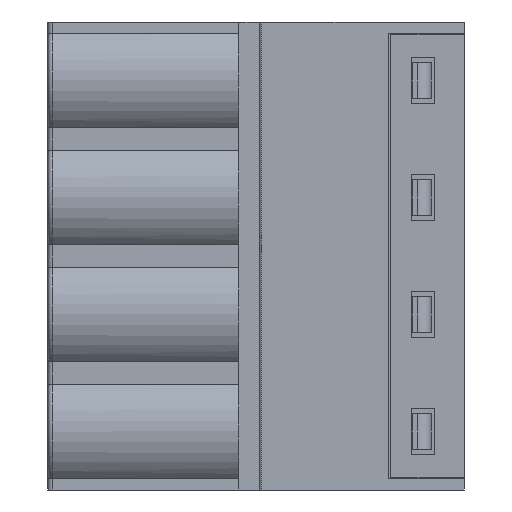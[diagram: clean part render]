
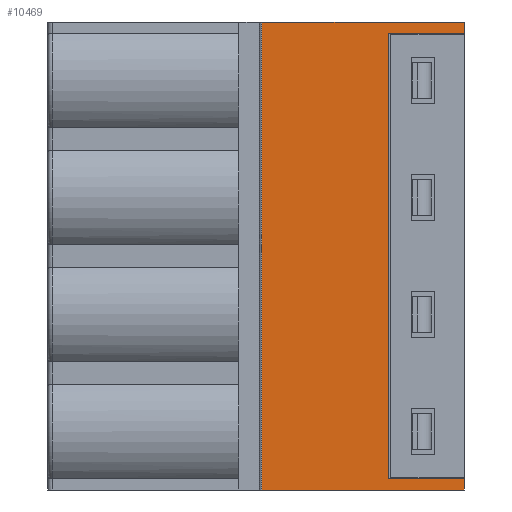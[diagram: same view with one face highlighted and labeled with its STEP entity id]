
A CAD part, left-side view. The second image highlights one B-rep face of the part: STEP entity #10469.
In plain terms, the highlighted planar face has unit normal (-1, 0, 0).
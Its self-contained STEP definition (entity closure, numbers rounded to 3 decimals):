
#19 = CARTESIAN_POINT ( 'NONE',  ( -3.9, 3.167, 0.492 ) ) ;
#136 = EDGE_CURVE ( 'NONE', #8897, #17135, #16107, .T. ) ;
#327 = CARTESIAN_POINT ( 'NONE',  ( -3.9, 3.3, 0.492 ) ) ;
#1275 = CARTESIAN_POINT ( 'NONE',  ( -3.9, 8.8, 0. ) ) ;
#1855 = DIRECTION ( 'NONE',  ( -1., 0., 0. ) ) ;
#1894 = CARTESIAN_POINT ( 'NONE',  ( -3.9, 8.8, 20.32 ) ) ;
#2184 = ORIENTED_EDGE ( 'NONE', *, *, #5096, .T. ) ;
#2385 = EDGE_CURVE ( 'NONE', #16694, #5315, #8690, .T. ) ;
#2491 = DIRECTION ( 'NONE',  ( 0., -1., 0. ) ) ;
#2533 = AXIS2_PLACEMENT_3D ( 'NONE', #16979, #1855, #16886 ) ;
#2594 = CARTESIAN_POINT ( 'NONE',  ( -3.9, 0., 20.32 ) ) ;
#2596 = ORIENTED_EDGE ( 'NONE', *, *, #14839, .F. ) ;
#2664 = ORIENTED_EDGE ( 'NONE', *, *, #2690, .T. ) ;
#2685 = CARTESIAN_POINT ( 'NONE',  ( -3.9, 2.9, 19.83 ) ) ;
#2690 = EDGE_CURVE ( 'NONE', #7382, #12235, #14552, .T. ) ;
#3226 = CARTESIAN_POINT ( 'NONE',  ( -3.9, 0., 0.49 ) ) ;
#3449 = ORIENTED_EDGE ( 'NONE', *, *, #2385, .F. ) ;
#3758 = CARTESIAN_POINT ( 'NONE',  ( -3.9, 0., 0. ) ) ;
#3806 = CARTESIAN_POINT ( 'NONE',  ( -3.9, 8.8, 20.32 ) ) ;
#4124 = EDGE_CURVE ( 'NONE', #10400, #8897, #17359, .T. ) ;
#4185 = VERTEX_POINT ( 'NONE', #6680 ) ;
#4357 = CARTESIAN_POINT ( 'NONE',  ( -3.9, 0., 0.49 ) ) ;
#4629 = FACE_OUTER_BOUND ( 'NONE', #10247, .T. ) ;
#5015 = ORIENTED_EDGE ( 'NONE', *, *, #136, .T. ) ;
#5096 = EDGE_CURVE ( 'NONE', #12235, #14252, #9155, .T. ) ;
#5315 = VERTEX_POINT ( 'NONE', #3226 ) ;
#5691 = CARTESIAN_POINT ( 'NONE',  ( -3.9, 1.933, 0.49 ) ) ;
#6680 = CARTESIAN_POINT ( 'NONE',  ( -3.9, 0., 20.32 ) ) ;
#7185 = ORIENTED_EDGE ( 'NONE', *, *, #17121, .F. ) ;
#7223 = LINE ( 'NONE', #11604, #15310 ) ;
#7382 = VERTEX_POINT ( 'NONE', #1894 ) ;
#7397 = LINE ( 'NONE', #4357, #12803 ) ;
#7493 = CARTESIAN_POINT ( 'NONE',  ( -3.9, 3.3, 19.828 ) ) ;
#7885 = VECTOR ( 'NONE', #12015, 1000. ) ;
#8113 = VECTOR ( 'NONE', #14769, 1000. ) ;
#8690 = B_SPLINE_CURVE_WITH_KNOTS ( 'NONE', 3,
 ( #11153, #5691, #14923, #10885 ),
 .UNSPECIFIED., .F., .F.,
 ( 4, 4 ),
 ( 0., 1. ),
 .UNSPECIFIED. ) ;
#8897 = VERTEX_POINT ( 'NONE', #2685 ) ;
#9110 = CARTESIAN_POINT ( 'NONE',  ( -3.9, 3.033, 19.829 ) ) ;
#9155 = LINE ( 'NONE', #9502, #7885 ) ;
#9262 = DIRECTION ( 'NONE',  ( 0., 0., -1. ) ) ;
#9327 = EDGE_CURVE ( 'NONE', #5315, #14252, #7397, .T. ) ;
#9399 = VERTEX_POINT ( 'NONE', #327 ) ;
#9502 = CARTESIAN_POINT ( 'NONE',  ( -3.9, 8.8, 0. ) ) ;
#9570 = CARTESIAN_POINT ( 'NONE',  ( -3.9, 2.9, 0.49 ) ) ;
#9613 = CARTESIAN_POINT ( 'NONE',  ( -3.9, 2.9, 0.49 ) ) ;
#9899 = ORIENTED_EDGE ( 'NONE', *, *, #4124, .T. ) ;
#10247 = EDGE_LOOP ( 'NONE', ( #2184, #12763, #3449, #2596, #17119, #9899, #5015, #12455, #7185, #2664 ) ) ;
#10400 = VERTEX_POINT ( 'NONE', #12148 ) ;
#10469 = ADVANCED_FACE ( 'NONE', ( #4629 ), #11513, .T. ) ;
#10885 = CARTESIAN_POINT ( 'NONE',  ( -3.9, 0., 0.49 ) ) ;
#10949 = CARTESIAN_POINT ( 'NONE',  ( -3.9, 3.033, 0.491 ) ) ;
#11153 = CARTESIAN_POINT ( 'NONE',  ( -3.9, 2.9, 0.49 ) ) ;
#11513 = PLANE ( 'NONE',  #2533 ) ;
#11543 = EDGE_CURVE ( 'NONE', #10400, #9399, #7223, .T. ) ;
#11604 = CARTESIAN_POINT ( 'NONE',  ( -3.9, 3.3, 19.828 ) ) ;
#12015 = DIRECTION ( 'NONE',  ( 0., -1., 0. ) ) ;
#12148 = CARTESIAN_POINT ( 'NONE',  ( -3.9, 3.3, 19.828 ) ) ;
#12235 = VERTEX_POINT ( 'NONE', #1275 ) ;
#12288 = CARTESIAN_POINT ( 'NONE',  ( -3.9, 3.3, 0.492 ) ) ;
#12455 = ORIENTED_EDGE ( 'NONE', *, *, #15564, .F. ) ;
#12574 = CARTESIAN_POINT ( 'NONE',  ( -3.9, 2.9, 19.83 ) ) ;
#12763 = ORIENTED_EDGE ( 'NONE', *, *, #9327, .F. ) ;
#12777 = DIRECTION ( 'NONE',  ( 0., 0., -1. ) ) ;
#12803 = VECTOR ( 'NONE', #13836, 1000. ) ;
#12954 = CARTESIAN_POINT ( 'NONE',  ( -3.9, 3.167, 19.828 ) ) ;
#13246 = LINE ( 'NONE', #2594, #8113 ) ;
#13836 = DIRECTION ( 'NONE',  ( 0., 0., -1. ) ) ;
#14252 = VERTEX_POINT ( 'NONE', #3758 ) ;
#14552 = LINE ( 'NONE', #3806, #17149 ) ;
#14664 = CARTESIAN_POINT ( 'NONE',  ( -3.9, 8.8, 20.32 ) ) ;
#14750 = LINE ( 'NONE', #14664, #17229 ) ;
#14769 = DIRECTION ( 'NONE',  ( 0., 0., -1. ) ) ;
#14839 = EDGE_CURVE ( 'NONE', #9399, #16694, #15541, .T. ) ;
#14923 = CARTESIAN_POINT ( 'NONE',  ( -3.9, 0.967, 0.49 ) ) ;
#15170 = CARTESIAN_POINT ( 'NONE',  ( -3.9, 0., 19.83 ) ) ;
#15310 = VECTOR ( 'NONE', #12777, 1000. ) ;
#15345 = CARTESIAN_POINT ( 'NONE',  ( -3.9, 0.967, 19.83 ) ) ;
#15541 = B_SPLINE_CURVE_WITH_KNOTS ( 'NONE', 3,
 ( #12288, #19, #10949, #9613 ),
 .UNSPECIFIED., .F., .F.,
 ( 4, 4 ),
 ( 0., 1. ),
 .UNSPECIFIED. ) ;
#15564 = EDGE_CURVE ( 'NONE', #4185, #17135, #13246, .T. ) ;
#15829 = CARTESIAN_POINT ( 'NONE',  ( -3.9, 2.9, 19.83 ) ) ;
#16107 = B_SPLINE_CURVE_WITH_KNOTS ( 'NONE', 3,
 ( #12574, #16961, #15345, #15170 ),
 .UNSPECIFIED., .F., .F.,
 ( 4, 4 ),
 ( 0., 1. ),
 .UNSPECIFIED. ) ;
#16694 = VERTEX_POINT ( 'NONE', #9570 ) ;
#16886 = DIRECTION ( 'NONE',  ( 0., 0., 1. ) ) ;
#16961 = CARTESIAN_POINT ( 'NONE',  ( -3.9, 1.933, 19.83 ) ) ;
#16979 = CARTESIAN_POINT ( 'NONE',  ( -3.9, 8.9, 0. ) ) ;
#17119 = ORIENTED_EDGE ( 'NONE', *, *, #11543, .F. ) ;
#17121 = EDGE_CURVE ( 'NONE', #7382, #4185, #14750, .T. ) ;
#17135 = VERTEX_POINT ( 'NONE', #17517 ) ;
#17149 = VECTOR ( 'NONE', #9262, 1000. ) ;
#17229 = VECTOR ( 'NONE', #2491, 1000. ) ;
#17359 = B_SPLINE_CURVE_WITH_KNOTS ( 'NONE', 3,
 ( #7493, #12954, #9110, #15829 ),
 .UNSPECIFIED., .F., .F.,
 ( 4, 4 ),
 ( 0., 1. ),
 .UNSPECIFIED. ) ;
#17517 = CARTESIAN_POINT ( 'NONE',  ( -3.9, 0., 19.83 ) ) ;
